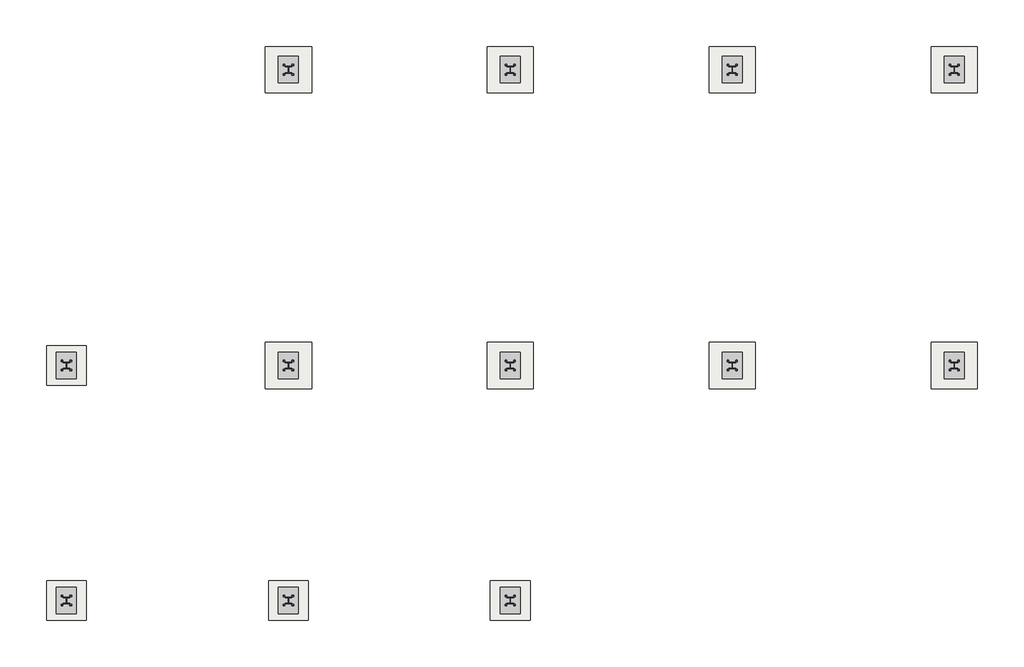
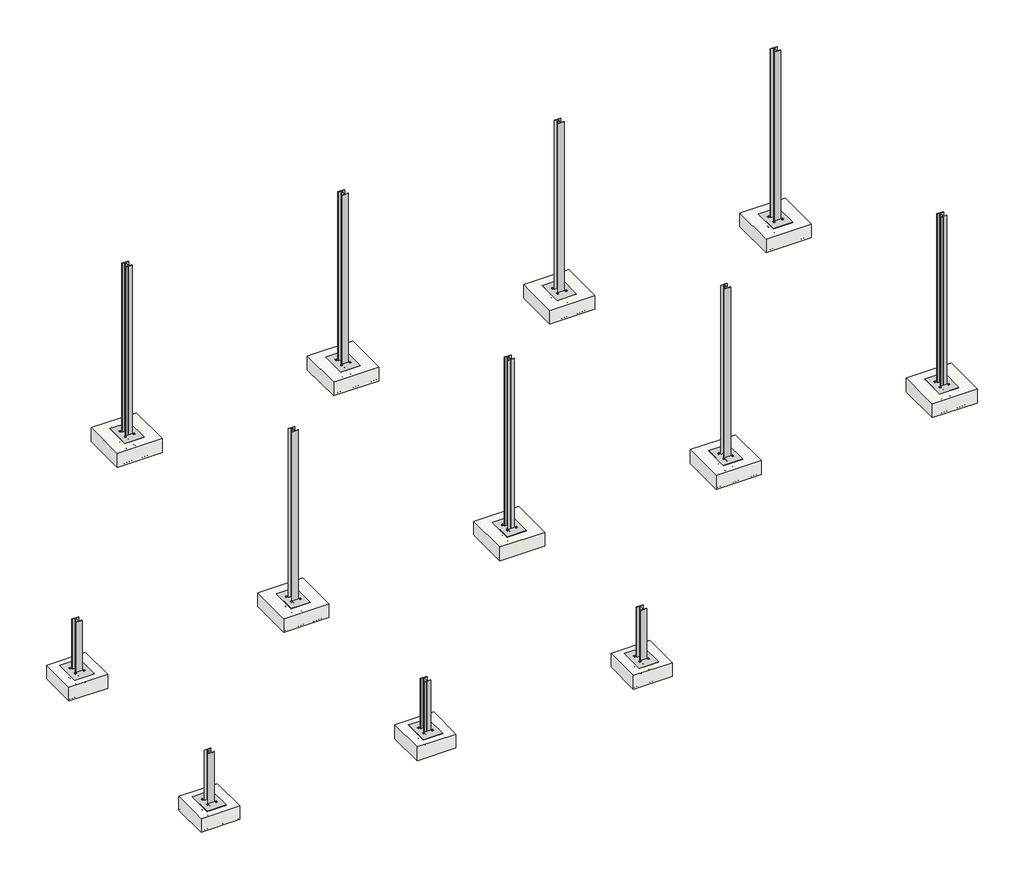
# One storey, part 1 of 3: 12 columns, 12 fasteners, 12 slabs.
"""IFC4 building model written with IfcOpenShell, lengths in millimetres."""

from ifc_helpers import new_model, si_unit, frame, origin, place, context, project, spatial, polyline, outline, extrude, transform, mapped, element, save
from components import pilar_heb_he200b_056fbc33, pilar_heb_he200b_2e70c724, column_base_connection_2297_connection_1b91c772, column_base_connection_2297_connection_aaa6c23a, column_base_connection_2297_connection_c4d7faf8, zapata_rectangular_1200_x_1200_x_450_mm_1789818b

model = new_model("IFC4")

# Units and contexts
model_context = context("Model", 3, world=origin())
ifc_project = project(units=[si_unit("LENGTHUNIT", "METRE", prefix="MILLI")], contexts=[model_context])

# Site, building, storey
site = spatial("IfcSite", under=ifc_project)
building = spatial("IfcBuilding", under=site)
storey = spatial("IfcBuildingStorey", under=building, Name="Nivel CIM", Elevation=-1000.0)

# Columns
placement = place(None, origin())
pilar_heb_he200b_shape = pilar_heb_he200b_056fbc33(model_context)
element("IfcColumn", 1, ObjectType="Pilar HEB : HE200B", at=placement, inside=storey, context=model_context, shape_type="MappedRepresentation", body=[
    mapped(pilar_heb_he200b_shape, transform((-809.4601106, -3593.1309012, 0.0), x_axis=(1.0, 0.0, 0.0), y_axis=(0.0, 1.0, 0.0), z_axis=(0.0, 0.0, 1.0))),
])
element("IfcColumn", 2, ObjectType="Pilar HEB : HE200B", at=placement, inside=storey, context=model_context, shape_type="MappedRepresentation", body=[
    mapped(pilar_heb_he200b_shape, transform((-7517.0118347, 5347.4380644, 0.0), x_axis=(-1.0, 0.0, 0.0), y_axis=(0.0, -1.0, 0.0), z_axis=(0.0, 0.0, 1.0))),
])
element("IfcColumn", 3, ObjectType="Pilar HEB : HE200B", at=placement, inside=storey, context=model_context, shape_type="MappedRepresentation", body=[
    mapped(pilar_heb_he200b_shape, transform((-7517.0118347, -3593.1309012, 0.0), x_axis=(-1.0, 0.0, 0.0), y_axis=(0.0, -1.0, 0.0), z_axis=(0.0, 0.0, 1.0))),
])
element("IfcColumn", 4, ObjectType="Pilar HEB : HE200B", at=placement, inside=storey, context=model_context, shape_type="MappedRepresentation", body=[
    mapped(pilar_heb_he200b_shape, transform((-809.4601106, 5347.4380644, 0.0), x_axis=(-1.0, 0.0, 0.0), y_axis=(0.0, -1.0, 0.0), z_axis=(0.0, 0.0, 1.0))),
])
element("IfcColumn", 5, ObjectType="Pilar HEB : HE200B", at=placement, inside=storey, context=model_context, shape_type="MappedRepresentation", body=[
    mapped(pilar_heb_he200b_shape, transform((5902.3416135, 5347.4380644, 0.0), x_axis=(-1.0, 0.0, 0.0), y_axis=(0.0, -1.0, 0.0), z_axis=(0.0, 0.0, 1.0))),
])
element("IfcColumn", 6, ObjectType="Pilar HEB : HE200B", at=placement, inside=storey, context=model_context, shape_type="MappedRepresentation", body=[
    mapped(pilar_heb_he200b_shape, transform((5902.3416135, -3593.1309012, 0.0), x_axis=(-1.0, 0.0, 0.0), y_axis=(0.0, -1.0, 0.0), z_axis=(0.0, 0.0, 1.0))),
])
element("IfcColumn", 7, ObjectType="Pilar HEB : HE200B", at=placement, inside=storey, context=model_context, shape_type="MappedRepresentation", body=[
    mapped(pilar_heb_he200b_shape, transform((12614.134717, 5347.4380644, 0.0), x_axis=(-1.0, 0.0, 0.0), y_axis=(0.0, -1.0, 0.0), z_axis=(0.0, 0.0, 1.0))),
])
element("IfcColumn", 8, ObjectType="Pilar HEB : HE200B", at=placement, inside=storey, context=model_context, shape_type="MappedRepresentation", body=[
    mapped(pilar_heb_he200b_shape, transform((12614.134717, -3593.1309012, 0.0), x_axis=(-1.0, 0.0, 0.0), y_axis=(0.0, -1.0, 0.0), z_axis=(0.0, 0.0, 1.0))),
])
pilar_heb_he200b_2_shape = pilar_heb_he200b_2e70c724(model_context)
element("IfcColumn", 9, ObjectType="Pilar HEB : HE200B", at=placement, inside=storey, context=model_context, shape_type="MappedRepresentation", body=[
    mapped(pilar_heb_he200b_2_shape, transform((-14227.0118347, -3593.1309012, 0.0), x_axis=(-1.0, 0.0, 0.0), y_axis=(0.0, -1.0, 0.0), z_axis=(0.0, 0.0, 1.0))),
])
element("IfcColumn", 10, ObjectType="Pilar HEB : HE200B", at=placement, inside=storey, context=model_context, shape_type="MappedRepresentation", body=[
    mapped(pilar_heb_he200b_2_shape, transform((-14227.0118347, -10699.8377977, 0.0), x_axis=(1.0, 0.0, 0.0), y_axis=(0.0, 1.0, 0.0), z_axis=(0.0, 0.0, 1.0))),
])
element("IfcColumn", 11, ObjectType="Pilar HEB : HE200B", at=placement, inside=storey, context=model_context, shape_type="MappedRepresentation", body=[
    mapped(pilar_heb_he200b_2_shape, transform((-7517.0118347, -10699.8377977, 0.0), x_axis=(1.0, 0.0, 0.0), y_axis=(0.0, 1.0, 0.0), z_axis=(0.0, 0.0, 1.0))),
])
element("IfcColumn", 12, ObjectType="Pilar HEB : HE200B", at=placement, inside=storey, context=model_context, shape_type="MappedRepresentation", body=[
    mapped(pilar_heb_he200b_2_shape, transform((-809.4601106, -10699.8377977, 0.0), x_axis=(1.0, 0.0, 0.0), y_axis=(0.0, 1.0, 0.0), z_axis=(0.0, 0.0, 1.0))),
])

# Fasteners
column_base_connection_2297_connection_shape = column_base_connection_2297_connection_1b91c772(model_context)
column_base_connection_2297_connection_2_shape = column_base_connection_2297_connection_aaa6c23a(model_context)
column_base_connection_2297_connection_3_shape = column_base_connection_2297_connection_c4d7faf8(model_context)
element("IfcFastener", 13, ObjectType="Column Base Connection(2297) : Connection", at=placement, inside=storey, context=model_context, shape_type="MappedRepresentation", body=[
    mapped(column_base_connection_2297_connection_shape, transform((-14227.0118347, -10699.8377977, -1030.0), x_axis=(0.0, -1.0, 0.0), y_axis=(-1.0, 0.0, 0.0), z_axis=(0.0, 0.0, -1.0))),
    mapped(column_base_connection_2297_connection_2_shape, transform((-14227.0118347, -10699.8377977, -1030.0), x_axis=(0.0, -1.0, 0.0), y_axis=(-1.0, 0.0, 0.0), z_axis=(0.0, 0.0, -1.0))),
    mapped(column_base_connection_2297_connection_3_shape, transform((-14227.0118347, -10699.8377977, -1030.0), x_axis=(0.0, -1.0, 0.0), y_axis=(-1.0, 0.0, 0.0), z_axis=(0.0, 0.0, -1.0))),
])
element("IfcFastener", 14, ObjectType="Column Base Connection(2297) : Connection", at=placement, inside=storey, context=model_context, shape_type="MappedRepresentation", body=[
    mapped(column_base_connection_2297_connection_shape, transform((-14227.0118347, -3593.1309012, -1030.0), x_axis=(0.0, -1.0, 0.0), y_axis=(-1.0, 0.0, 0.0), z_axis=(0.0, 0.0, -1.0))),
    mapped(column_base_connection_2297_connection_2_shape, transform((-14227.0118347, -3593.1309012, -1030.0), x_axis=(0.0, -1.0, 0.0), y_axis=(-1.0, 0.0, 0.0), z_axis=(0.0, 0.0, -1.0))),
    mapped(column_base_connection_2297_connection_3_shape, transform((-14227.0118347, -3593.1309012, -1030.0), x_axis=(0.0, -1.0, 0.0), y_axis=(-1.0, 0.0, 0.0), z_axis=(0.0, 0.0, -1.0))),
])
element("IfcFastener", 15, ObjectType="Column Base Connection(2297) : Connection", at=placement, inside=storey, context=model_context, shape_type="MappedRepresentation", body=[
    mapped(column_base_connection_2297_connection_shape, transform((-7517.0118347, -10699.8377977, -1030.0), x_axis=(0.0, -1.0, 0.0), y_axis=(-1.0, 0.0, 0.0), z_axis=(0.0, 0.0, -1.0))),
    mapped(column_base_connection_2297_connection_2_shape, transform((-7517.0118347, -10699.8377977, -1030.0), x_axis=(0.0, -1.0, 0.0), y_axis=(-1.0, 0.0, 0.0), z_axis=(0.0, 0.0, -1.0))),
    mapped(column_base_connection_2297_connection_3_shape, transform((-7517.0118347, -10699.8377977, -1030.0), x_axis=(0.0, -1.0, 0.0), y_axis=(-1.0, 0.0, 0.0), z_axis=(0.0, 0.0, -1.0))),
])
element("IfcFastener", 16, ObjectType="Column Base Connection(2297) : Connection", at=placement, inside=storey, context=model_context, shape_type="MappedRepresentation", body=[
    mapped(column_base_connection_2297_connection_shape, transform((-7517.0118347, -3593.1309012, -1030.0), x_axis=(0.0, -1.0, 0.0), y_axis=(-1.0, 0.0, 0.0), z_axis=(0.0, 0.0, -1.0))),
    mapped(column_base_connection_2297_connection_2_shape, transform((-7517.0118347, -3593.1309012, -1030.0), x_axis=(0.0, -1.0, 0.0), y_axis=(-1.0, 0.0, 0.0), z_axis=(0.0, 0.0, -1.0))),
    mapped(column_base_connection_2297_connection_3_shape, transform((-7517.0118347, -3593.1309012, -1030.0), x_axis=(0.0, -1.0, 0.0), y_axis=(-1.0, 0.0, 0.0), z_axis=(0.0, 0.0, -1.0))),
])
element("IfcFastener", 17, ObjectType="Column Base Connection(2297) : Connection", at=placement, inside=storey, context=model_context, shape_type="MappedRepresentation", body=[
    mapped(column_base_connection_2297_connection_shape, transform((-7517.0118347, 5347.4380644, -1030.0), x_axis=(0.0, -1.0, 0.0), y_axis=(-1.0, 0.0, 0.0), z_axis=(0.0, 0.0, -1.0))),
    mapped(column_base_connection_2297_connection_2_shape, transform((-7517.0118347, 5347.4380644, -1030.0), x_axis=(0.0, -1.0, 0.0), y_axis=(-1.0, 0.0, 0.0), z_axis=(0.0, 0.0, -1.0))),
    mapped(column_base_connection_2297_connection_3_shape, transform((-7517.0118347, 5347.4380644, -1030.0), x_axis=(0.0, -1.0, 0.0), y_axis=(-1.0, 0.0, 0.0), z_axis=(0.0, 0.0, -1.0))),
])
element("IfcFastener", 18, ObjectType="Column Base Connection(2297) : Connection", at=placement, inside=storey, context=model_context, shape_type="MappedRepresentation", body=[
    mapped(column_base_connection_2297_connection_shape, transform((-809.4601106, -10699.8377977, -1030.0), x_axis=(0.0, -1.0, 0.0), y_axis=(-1.0, 0.0, 0.0), z_axis=(0.0, 0.0, -1.0))),
    mapped(column_base_connection_2297_connection_2_shape, transform((-809.4601106, -10699.8377977, -1030.0), x_axis=(0.0, -1.0, 0.0), y_axis=(-1.0, 0.0, 0.0), z_axis=(0.0, 0.0, -1.0))),
    mapped(column_base_connection_2297_connection_3_shape, transform((-809.4601106, -10699.8377977, -1030.0), x_axis=(0.0, -1.0, 0.0), y_axis=(-1.0, 0.0, 0.0), z_axis=(0.0, 0.0, -1.0))),
])
element("IfcFastener", 19, ObjectType="Column Base Connection(2297) : Connection", at=placement, inside=storey, context=model_context, shape_type="MappedRepresentation", body=[
    mapped(column_base_connection_2297_connection_shape, transform((-809.4601106, -3593.1309012, -1030.0), x_axis=(0.0, -1.0, 0.0), y_axis=(-1.0, 0.0, 0.0), z_axis=(0.0, 0.0, -1.0))),
    mapped(column_base_connection_2297_connection_2_shape, transform((-809.4601106, -3593.1309012, -1030.0), x_axis=(0.0, -1.0, 0.0), y_axis=(-1.0, 0.0, 0.0), z_axis=(0.0, 0.0, -1.0))),
    mapped(column_base_connection_2297_connection_3_shape, transform((-809.4601106, -3593.1309012, -1030.0), x_axis=(0.0, -1.0, 0.0), y_axis=(-1.0, 0.0, 0.0), z_axis=(0.0, 0.0, -1.0))),
])
element("IfcFastener", 20, ObjectType="Column Base Connection(2297) : Connection", at=placement, inside=storey, context=model_context, shape_type="MappedRepresentation", body=[
    mapped(column_base_connection_2297_connection_shape, transform((-809.4601106, 5347.4380644, -1030.0), x_axis=(0.0, -1.0, 0.0), y_axis=(-1.0, 0.0, 0.0), z_axis=(0.0, 0.0, -1.0))),
    mapped(column_base_connection_2297_connection_2_shape, transform((-809.4601106, 5347.4380644, -1030.0), x_axis=(0.0, -1.0, 0.0), y_axis=(-1.0, 0.0, 0.0), z_axis=(0.0, 0.0, -1.0))),
    mapped(column_base_connection_2297_connection_3_shape, transform((-809.4601106, 5347.4380644, -1030.0), x_axis=(0.0, -1.0, 0.0), y_axis=(-1.0, 0.0, 0.0), z_axis=(0.0, 0.0, -1.0))),
])
element("IfcFastener", 21, ObjectType="Column Base Connection(2297) : Connection", at=placement, inside=storey, context=model_context, shape_type="MappedRepresentation", body=[
    mapped(column_base_connection_2297_connection_shape, transform((5902.3416135, -3593.1309012, -1030.0), x_axis=(0.0, -1.0, 0.0), y_axis=(-1.0, 0.0, 0.0), z_axis=(0.0, 0.0, -1.0))),
    mapped(column_base_connection_2297_connection_2_shape, transform((5902.3416135, -3593.1309012, -1030.0), x_axis=(0.0, -1.0, 0.0), y_axis=(-1.0, 0.0, 0.0), z_axis=(0.0, 0.0, -1.0))),
    mapped(column_base_connection_2297_connection_3_shape, transform((5902.3416135, -3593.1309012, -1030.0), x_axis=(0.0, -1.0, 0.0), y_axis=(-1.0, 0.0, 0.0), z_axis=(0.0, 0.0, -1.0))),
])
element("IfcFastener", 22, ObjectType="Column Base Connection(2297) : Connection", at=placement, inside=storey, context=model_context, shape_type="MappedRepresentation", body=[
    mapped(column_base_connection_2297_connection_shape, transform((5902.3416135, 5347.4380644, -1030.0), x_axis=(0.0, -1.0, 0.0), y_axis=(-1.0, 0.0, 0.0), z_axis=(0.0, 0.0, -1.0))),
    mapped(column_base_connection_2297_connection_2_shape, transform((5902.3416135, 5347.4380644, -1030.0), x_axis=(0.0, -1.0, 0.0), y_axis=(-1.0, 0.0, 0.0), z_axis=(0.0, 0.0, -1.0))),
    mapped(column_base_connection_2297_connection_3_shape, transform((5902.3416135, 5347.4380644, -1030.0), x_axis=(0.0, -1.0, 0.0), y_axis=(-1.0, 0.0, 0.0), z_axis=(0.0, 0.0, -1.0))),
])
element("IfcFastener", 23, ObjectType="Column Base Connection(2297) : Connection", at=placement, inside=storey, context=model_context, shape_type="MappedRepresentation", body=[
    mapped(column_base_connection_2297_connection_shape, transform((12614.134717, -3593.1309012, -1030.0), x_axis=(0.0, -1.0, 0.0), y_axis=(-1.0, 0.0, 0.0), z_axis=(0.0, 0.0, -1.0))),
    mapped(column_base_connection_2297_connection_2_shape, transform((12614.134717, -3593.1309012, -1030.0), x_axis=(0.0, -1.0, 0.0), y_axis=(-1.0, 0.0, 0.0), z_axis=(0.0, 0.0, -1.0))),
    mapped(column_base_connection_2297_connection_3_shape, transform((12614.134717, -3593.1309012, -1030.0), x_axis=(0.0, -1.0, 0.0), y_axis=(-1.0, 0.0, 0.0), z_axis=(0.0, 0.0, -1.0))),
])
element("IfcFastener", 24, ObjectType="Column Base Connection(2297) : Connection", at=placement, inside=storey, context=model_context, shape_type="MappedRepresentation", body=[
    mapped(column_base_connection_2297_connection_shape, transform((12614.134717, 5347.4380644, -1030.0), x_axis=(0.0, -1.0, 0.0), y_axis=(-1.0, 0.0, 0.0), z_axis=(0.0, 0.0, -1.0))),
    mapped(column_base_connection_2297_connection_2_shape, transform((12614.134717, 5347.4380644, -1030.0), x_axis=(0.0, -1.0, 0.0), y_axis=(-1.0, 0.0, 0.0), z_axis=(0.0, 0.0, -1.0))),
    mapped(column_base_connection_2297_connection_3_shape, transform((12614.134717, 5347.4380644, -1030.0), x_axis=(0.0, -1.0, 0.0), y_axis=(-1.0, 0.0, 0.0), z_axis=(0.0, 0.0, -1.0))),
])

# Slabs
element("IfcSlab", 25, ObjectType="Zapata-Rectangular : 1200 x 1200 x 450 mm", at=placement, inside=storey, context=model_context, shape_type="SweptSolid", body=[
    extrude(outline(polyline([(-6917.0118347, -10099.8377977), (-6917.0118347, -11299.8377977), (-8117.0118347, -11299.8377977), (-8117.0118347, -10099.8377977), (-6917.0118347, -10099.8377977)])), frame((0.0, 0.0, -1450.0), z_axis=(0.0, 0.0, 1.0), x_axis=(1.0, 0.0, 0.0)), (0.0, 0.0, 1.0), 450.0),
])
element("IfcSlab", 26, ObjectType="Zapata-Rectangular : 1200 x 1200 x 450 mm", at=placement, inside=storey, context=model_context, shape_type="SweptSolid", body=[
    extrude(outline(polyline([(-209.4601106, -10099.8377977), (-209.4601106, -11299.8377977), (-1409.4601106, -11299.8377977), (-1409.4601106, -10099.8377977), (-209.4601106, -10099.8377977)])), frame((0.0, 0.0, -1450.0), z_axis=(0.0, 0.0, 1.0), x_axis=(1.0, 0.0, 0.0)), (0.0, 0.0, 1.0), 450.0),
])
zapata_rectangular_1200_x_1200_x_450_mm_shape = zapata_rectangular_1200_x_1200_x_450_mm_1789818b(model_context)
element("IfcSlab", 27, ObjectType="Zapata-Rectangular : 1200 x 1200 x 450 mm", at=placement, inside=storey, context=model_context, shape_type="MappedRepresentation", body=[
    mapped(zapata_rectangular_1200_x_1200_x_450_mm_shape, transform((-14227.0118347, -3593.1309012, -1000.0), x_axis=(-1.0, 0.0, 0.0), y_axis=(0.0, -1.0, 0.0), z_axis=(0.0, 0.0, 1.0))),
])
element("IfcSlab", 28, ObjectType="Zapata-Rectangular : 1200 x 1200 x 450 mm", at=placement, inside=storey, context=model_context, shape_type="MappedRepresentation", body=[
    mapped(zapata_rectangular_1200_x_1200_x_450_mm_shape, transform((-14227.0118347, -10699.8377977, -1000.0), x_axis=(1.0, 0.0, 0.0), y_axis=(0.0, 1.0, 0.0), z_axis=(0.0, 0.0, 1.0))),
])
element("IfcSlab", 29, ObjectType="Zapata-Rectangular_PinturaLateral : 1400 x 1400 x 450 mm", at=placement, inside=storey, context=model_context, shape_type="SweptSolid", body=[
    extrude(outline(polyline([(-109.4601106, -2893.1309012), (-109.4601106, -4293.1309012), (-1509.4601106, -4293.1309012), (-1509.4601106, -2893.1309012), (-109.4601106, -2893.1309012)])), frame((0.0, 0.0, -1450.0), z_axis=(0.0, 0.0, 1.0), x_axis=(1.0, 0.0, 0.0)), (0.0, 0.0, 1.0), 450.0),
])
element("IfcSlab", 30, ObjectType="Zapata-Rectangular_PinturaLateral : 1400 x 1400 x 450 mm", at=placement, inside=storey, context=model_context, shape_type="SweptSolid", body=[
    extrude(outline(polyline([(-8217.0118347, 4647.4380644), (-8217.0118347, 6047.4380644), (-6817.0118347, 6047.4380644), (-6817.0118347, 4647.4380644), (-8217.0118347, 4647.4380644)])), frame((0.0, 0.0, -1450.0), z_axis=(0.0, 0.0, 1.0), x_axis=(1.0, 0.0, 0.0)), (0.0, 0.0, 1.0), 450.0),
])
element("IfcSlab", 31, ObjectType="Zapata-Rectangular_PinturaLateral : 1400 x 1400 x 450 mm", at=placement, inside=storey, context=model_context, shape_type="SweptSolid", body=[
    extrude(outline(polyline([(-8217.0118347, -4293.1309012), (-8217.0118347, -2893.1309012), (-6817.0118347, -2893.1309012), (-6817.0118347, -4293.1309012), (-8217.0118347, -4293.1309012)])), frame((0.0, 0.0, -1450.0), z_axis=(0.0, 0.0, 1.0), x_axis=(1.0, 0.0, 0.0)), (0.0, 0.0, 1.0), 450.0),
])
element("IfcSlab", 32, ObjectType="Zapata-Rectangular_PinturaLateral : 1400 x 1400 x 450 mm", at=placement, inside=storey, context=model_context, shape_type="SweptSolid", body=[
    extrude(outline(polyline([(-1509.4601106, 4647.4380644), (-1509.4601106, 6047.4380644), (-109.4601106, 6047.4380644), (-109.4601106, 4647.4380644), (-1509.4601106, 4647.4380644)])), frame((0.0, 0.0, -1450.0), z_axis=(0.0, 0.0, 1.0), x_axis=(1.0, 0.0, 0.0)), (0.0, 0.0, 1.0), 450.0),
])
element("IfcSlab", 33, ObjectType="Zapata-Rectangular_PinturaLateral : 1400 x 1400 x 450 mm", at=placement, inside=storey, context=model_context, shape_type="SweptSolid", body=[
    extrude(outline(polyline([(5202.3416135, 4647.4380644), (5202.3416135, 6047.4380644), (6602.3416135, 6047.4380644), (6602.3416135, 4647.4380644), (5202.3416135, 4647.4380644)])), frame((0.0, 0.0, -1450.0), z_axis=(0.0, 0.0, 1.0), x_axis=(1.0, 0.0, 0.0)), (0.0, 0.0, 1.0), 450.0),
])
element("IfcSlab", 34, ObjectType="Zapata-Rectangular_PinturaLateral : 1400 x 1400 x 450 mm", at=placement, inside=storey, context=model_context, shape_type="SweptSolid", body=[
    extrude(outline(polyline([(5202.3416135, -4293.1309012), (5202.3416135, -2893.1309012), (6602.3416135, -2893.1309012), (6602.3416135, -4293.1309012), (5202.3416135, -4293.1309012)])), frame((0.0, 0.0, -1450.0), z_axis=(0.0, 0.0, 1.0), x_axis=(1.0, 0.0, 0.0)), (0.0, 0.0, 1.0), 450.0),
])
element("IfcSlab", 35, ObjectType="Zapata-Rectangular_PinturaLateral : 1400 x 1400 x 450 mm", at=placement, inside=storey, context=model_context, shape_type="SweptSolid", body=[
    extrude(outline(polyline([(11914.134717, 4647.4380644), (11914.134717, 6047.4380644), (13314.134717, 6047.4380644), (13314.134717, 4647.4380644), (11914.134717, 4647.4380644)])), frame((0.0, 0.0, -1450.0), z_axis=(0.0, 0.0, 1.0), x_axis=(1.0, 0.0, 0.0)), (0.0, 0.0, 1.0), 450.0),
])
element("IfcSlab", 36, ObjectType="Zapata-Rectangular_PinturaLateral : 1400 x 1400 x 450 mm", at=placement, inside=storey, context=model_context, shape_type="SweptSolid", body=[
    extrude(outline(polyline([(11914.134717, -4293.1309012), (11914.134717, -2893.1309012), (13314.134717, -2893.1309012), (13314.134717, -4293.1309012), (11914.134717, -4293.1309012)])), frame((0.0, 0.0, -1450.0), z_axis=(0.0, 0.0, 1.0), x_axis=(1.0, 0.0, 0.0)), (0.0, 0.0, 1.0), 450.0),
])

save(model, "model.ifc")
